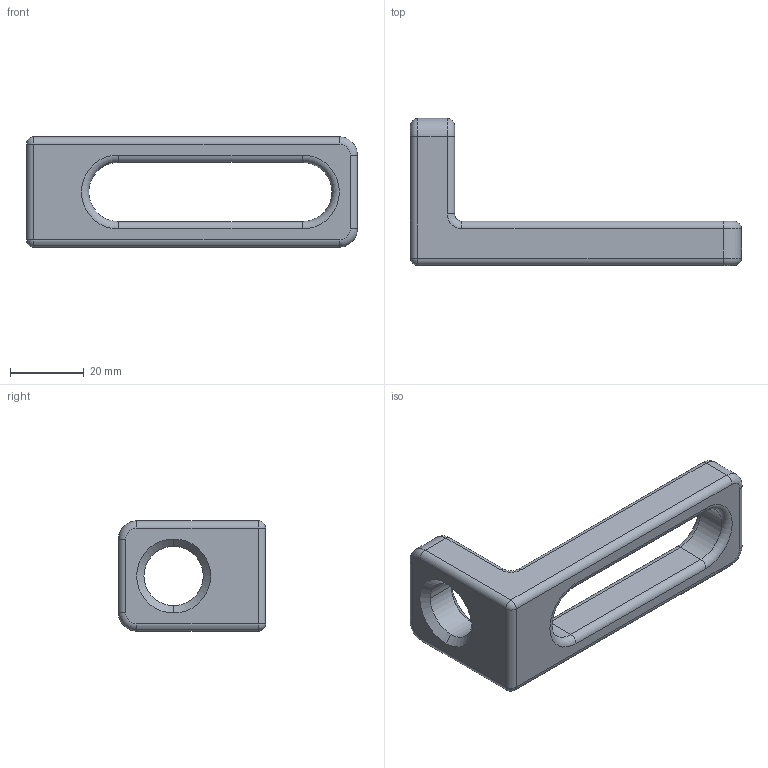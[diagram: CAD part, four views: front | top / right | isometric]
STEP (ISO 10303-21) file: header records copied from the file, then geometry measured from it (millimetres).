
FILE_DESCRIPTION (( 'STEP AP203' ), '1' );
FILE_NAME ('160109_90 LL.step', '2014-08-08T10:20:36', ( 'User' ), ( '' ), 'SwSTEP 2.0', 'SolidWorks 2014', '' );
FILE_SCHEMA (( 'CONFIG_CONTROL_DESIGN' ));
Length unit declared in the file: millimetre
Products named in the file (1): 160109_90 LL
Bounding box: 90 x 40 x 30 mm (x, y, z)
Volume: 26708.4 mm3; surface area: 9567 mm2
Topology: 1 solids, 1 shells, 58 faces, 136 edges, 78 vertices
Faces by surface type: cylinder 27, torus 15, plane 10, cone 4, sphere 2
Entity records: 1730 total; most frequent: DIRECTION 331, CARTESIAN_POINT 271, ORIENTED_EDGE 268, AXIS2_PLACEMENT_3D 138, EDGE_CURVE 134, CIRCLE 79, VERTEX_POINT 78, EDGE_LOOP 62
